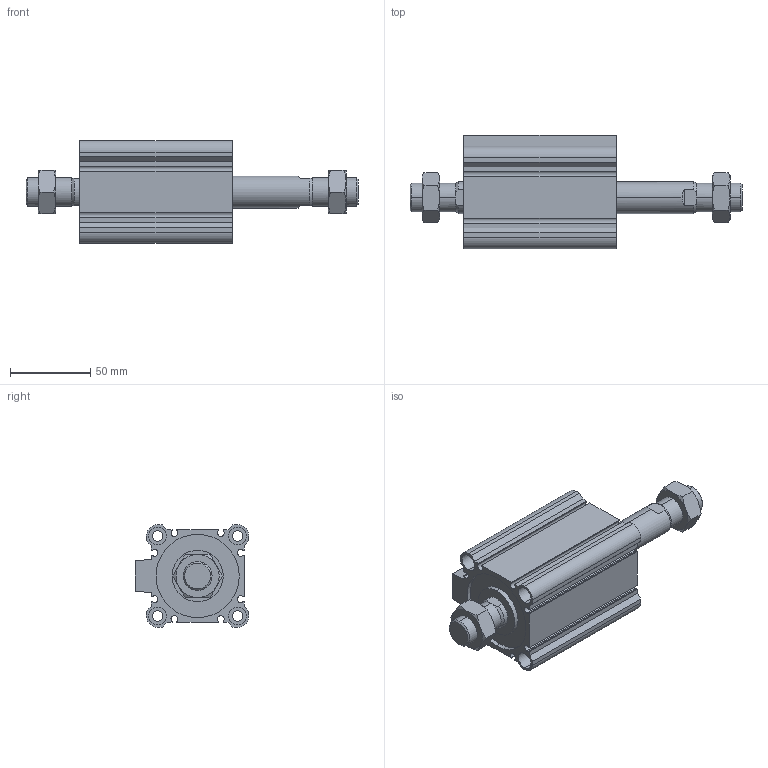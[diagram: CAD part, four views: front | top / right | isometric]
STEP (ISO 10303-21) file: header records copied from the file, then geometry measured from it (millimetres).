
FILE_DESCRIPTION (( 'STEP AP203' ), '1' );
FILE_NAME ('CCMB50-45M-P.STEP', '2020-08-10T11:46:10', ( '' ), ( '' ), 'SwSTEP 2.0', 'SolidWorks 2019', '' );
FILE_SCHEMA (( 'CONFIG_CONTROL_DESIGN' ));
Length unit declared in the file: millimetre
Products named in the file (1): CCMB50-45M-P
Bounding box: 207.5 x 71 x 64 mm (x, y, z)
Volume: 286947.7 mm3; surface area: 90112.9 mm2
Topology: 4 solids, 4 shells, 220 faces, 534 edges, 340 vertices
Faces by surface type: plane 98, cylinder 78, cone 44
Entity records: 7173 total; most frequent: CARTESIAN_POINT 1867, DIRECTION 1116, ORIENTED_EDGE 1068, EDGE_CURVE 534, AXIS2_PLACEMENT_3D 425, VERTEX_POINT 340, VECTOR 266, LINE 266
